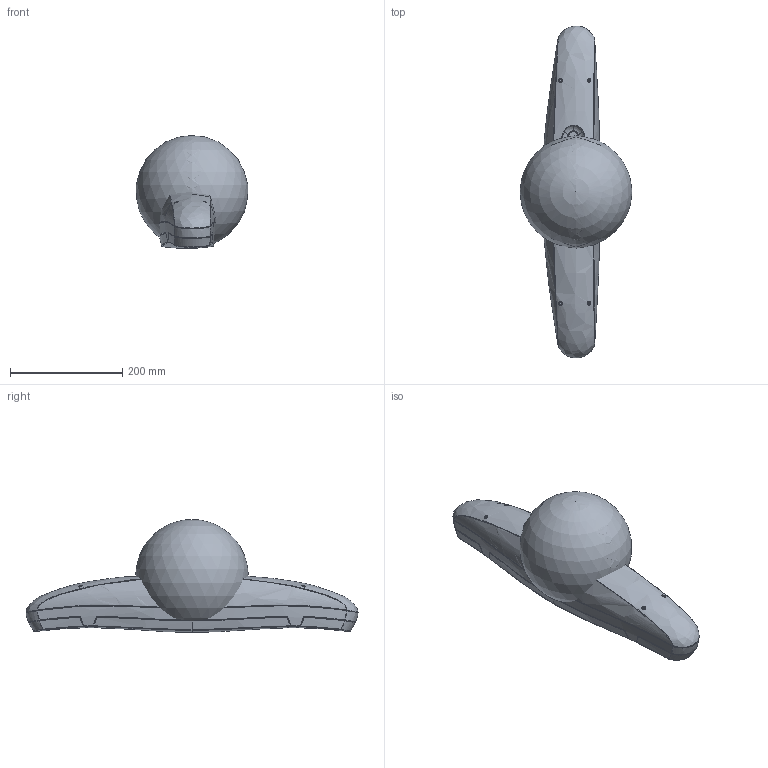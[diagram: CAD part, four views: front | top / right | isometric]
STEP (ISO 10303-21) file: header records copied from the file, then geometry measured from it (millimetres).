
FILE_DESCRIPTION((''),'2;1');
FILE_NAME('10000067_VEGA_ASSEMBLY_SURFACES','2017-01-26T',('dwillms'),(''),'CREO PARAMETRIC BY PTC INC, 2014500','CREO PARAMETRIC BY PTC INC, 2014500','');
FILE_SCHEMA(('AUTOMOTIVE_DESIGN { 1 0 10303 214 1 1 1 1 }'));
Products named in the file (1): 10000067_VEGA_ASSEMBLY_SURFACES
Bounding box: 198.54 x 591.18 x 201.19 mm (x, y, z)
Surface area: 443262.3 mm2 (no closed solid volume)
Topology: 0 solids, 0 shells, 568 faces, 2974 edges, 2954 vertices
Faces by surface type: bspline 550, torus 10, sphere 8
Entity records: 193845 total; most frequent: CARTESIAN_POINT 166598, DEFINITIONAL_REPRESENTATION 2934, PCURVE 2934, COMPOSITE_CURVE_SEGMENT 2934, DIRECTION 2789, B_SPLINE_CURVE_WITH_KNOTS 2446, TRIMMED_CURVE 2440, VECTOR 2127
